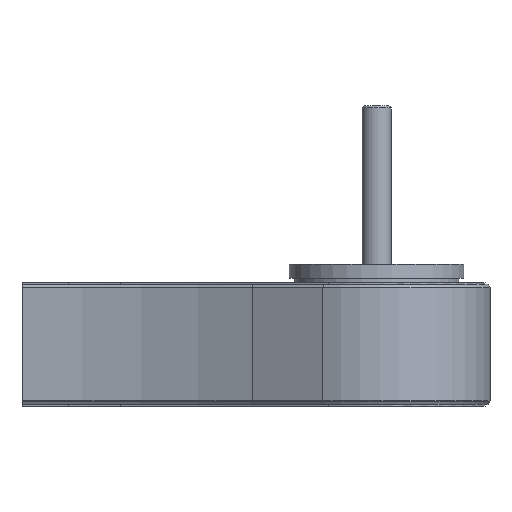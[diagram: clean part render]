
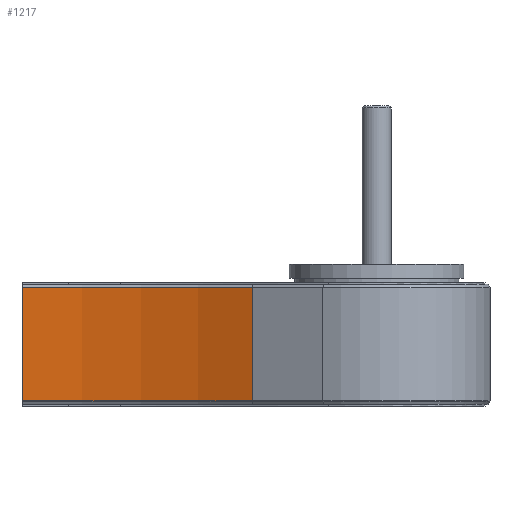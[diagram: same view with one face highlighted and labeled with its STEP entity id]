
A CAD part, front view. The second image highlights one B-rep face of the part: STEP entity #1217.
In plain terms, the highlighted cylindrical face has radius 334.629 mm (diameter 669.258 mm), a partial arc.
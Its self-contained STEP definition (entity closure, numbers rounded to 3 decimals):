
#329 = DIRECTION ( 'NONE',  ( 1., 0., 0. ) ) ;
#894 = AXIS2_PLACEMENT_3D ( 'NONE', #2514, #948, #329 ) ;
#948 = DIRECTION ( 'NONE',  ( 0., 0., 1. ) ) ;
#953 = DIRECTION ( 'NONE',  ( 0., 0., 1. ) ) ;
#1084 = VERTEX_POINT ( 'NONE', #3694 ) ;
#1217 = ADVANCED_FACE ( 'NONE', ( #7177 ), #8040, .F. ) ;
#1407 = DIRECTION ( 'NONE',  ( 1., 0., 0. ) ) ;
#1626 = EDGE_LOOP ( 'NONE', ( #5494, #2475, #6581, #7879 ) ) ;
#1641 = CARTESIAN_POINT ( 'NONE',  ( -243.926, -2.726, -38.866 ) ) ;
#2445 = DIRECTION ( 'NONE',  ( 0., 0., 1. ) ) ;
#2475 = ORIENTED_EDGE ( 'NONE', *, *, #5762, .T. ) ;
#2514 = CARTESIAN_POINT ( 'NONE',  ( -243.926, -337.355, 0. ) ) ;
#2772 = EDGE_CURVE ( 'NONE', #1084, #9364, #10247, .T. ) ;
#3258 = CARTESIAN_POINT ( 'NONE',  ( -85.518, -42.595, -38.866 ) ) ;
#3694 = CARTESIAN_POINT ( 'NONE',  ( -85.518, -42.595, -38.866 ) ) ;
#3825 = DIRECTION ( 'NONE',  ( 0., 0., 1. ) ) ;
#4087 = AXIS2_PLACEMENT_3D ( 'NONE', #7210, #2445, #5640 ) ;
#4558 = CIRCLE ( 'NONE', #4087, 334.629 ) ;
#4960 = CARTESIAN_POINT ( 'NONE',  ( -243.926, -2.726, -38.866 ) ) ;
#5209 = CARTESIAN_POINT ( 'NONE',  ( -85.518, -42.595, 38.866 ) ) ;
#5464 = LINE ( 'NONE', #1641, #9949 ) ;
#5494 = ORIENTED_EDGE ( 'NONE', *, *, #2772, .T. ) ;
#5640 = DIRECTION ( 'NONE',  ( 1., 0., 0. ) ) ;
#5762 = EDGE_CURVE ( 'NONE', #9364, #6703, #6347, .T. ) ;
#6347 = CIRCLE ( 'NONE', #9644, 334.629 ) ;
#6556 = VERTEX_POINT ( 'NONE', #4960 ) ;
#6581 = ORIENTED_EDGE ( 'NONE', *, *, #8165, .F. ) ;
#6703 = VERTEX_POINT ( 'NONE', #10302 ) ;
#7003 = CARTESIAN_POINT ( 'NONE',  ( -243.926, -337.355, 38.866 ) ) ;
#7177 = FACE_OUTER_BOUND ( 'NONE', #1626, .T. ) ;
#7195 = DIRECTION ( 'NONE',  ( 0., 0., 1. ) ) ;
#7210 = CARTESIAN_POINT ( 'NONE',  ( -243.926, -337.355, -38.866 ) ) ;
#7555 = EDGE_CURVE ( 'NONE', #1084, #6556, #4558, .T. ) ;
#7879 = ORIENTED_EDGE ( 'NONE', *, *, #7555, .F. ) ;
#8040 = CYLINDRICAL_SURFACE ( 'NONE', #894, 334.629 ) ;
#8165 = EDGE_CURVE ( 'NONE', #6556, #6703, #5464, .T. ) ;
#9364 = VERTEX_POINT ( 'NONE', #5209 ) ;
#9644 = AXIS2_PLACEMENT_3D ( 'NONE', #7003, #3825, #1407 ) ;
#9949 = VECTOR ( 'NONE', #7195, 1000. ) ;
#10001 = VECTOR ( 'NONE', #953, 1000. ) ;
#10247 = LINE ( 'NONE', #3258, #10001 ) ;
#10302 = CARTESIAN_POINT ( 'NONE',  ( -243.926, -2.726, 38.866 ) ) ;
